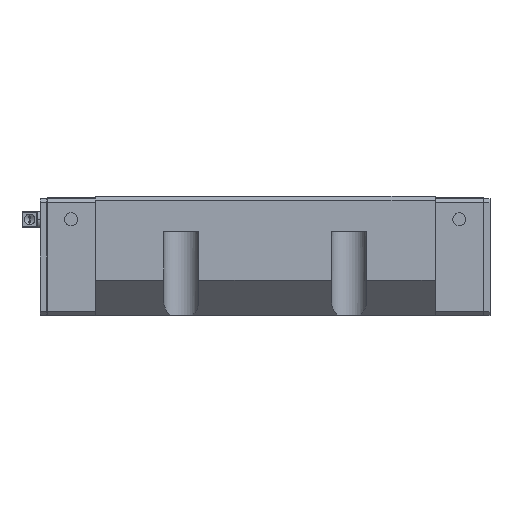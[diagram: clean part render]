
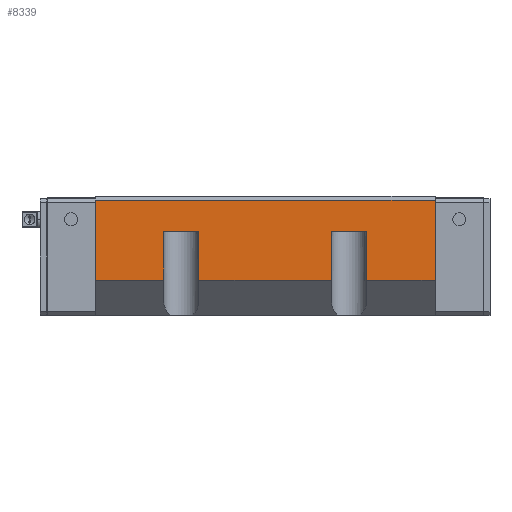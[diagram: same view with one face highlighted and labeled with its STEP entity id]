
A CAD part, top view. The second image highlights one B-rep face of the part: STEP entity #8339.
In plain terms, the highlighted planar face has unit normal (0, 0, 1).
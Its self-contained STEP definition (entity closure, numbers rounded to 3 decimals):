
#3 = DIRECTION ( 'NONE',  ( 1., 0., 0. ) ) ;
#21 = EDGE_LOOP ( 'NONE', ( #1453, #3476, #610, #3822, #1766, #6473, #3741, #2772, #1483, #8068, #5804, #791 ) ) ;
#267 = CARTESIAN_POINT ( 'NONE',  ( -80., 34.5, 85. ) ) ;
#334 = DIRECTION ( 'NONE',  ( 1., 0., 0. ) ) ;
#413 = FACE_OUTER_BOUND ( 'NONE', #21, .T. ) ;
#442 = VERTEX_POINT ( 'NONE', #8872 ) ;
#499 = DIRECTION ( 'NONE',  ( 0., -1., 0. ) ) ;
#551 = CARTESIAN_POINT ( 'NONE',  ( 66.5, -18., 85. ) ) ;
#610 = ORIENTED_EDGE ( 'NONE', *, *, #4860, .T. ) ;
#643 = DIRECTION ( 'NONE',  ( 0., 1., 0. ) ) ;
#672 = EDGE_CURVE ( 'NONE', #7491, #3756, #741, .T. ) ;
#739 = DIRECTION ( 'NONE',  ( 1., 0., 0. ) ) ;
#741 = LINE ( 'NONE', #6778, #2988 ) ;
#791 = ORIENTED_EDGE ( 'NONE', *, *, #672, .T. ) ;
#960 = VECTOR ( 'NONE', #8897, 1000. ) ;
#1019 = VECTOR ( 'NONE', #3, 1000. ) ;
#1217 = LINE ( 'NONE', #8866, #5046 ) ;
#1453 = ORIENTED_EDGE ( 'NONE', *, *, #3632, .T. ) ;
#1483 = ORIENTED_EDGE ( 'NONE', *, *, #7127, .F. ) ;
#1595 = CARTESIAN_POINT ( 'NONE',  ( -111.5, 34.5, 85. ) ) ;
#1766 = ORIENTED_EDGE ( 'NONE', *, *, #4069, .T. ) ;
#1837 = VERTEX_POINT ( 'NONE', #6180 ) ;
#1909 = AXIS2_PLACEMENT_3D ( 'NONE', #267, #6544, #6349 ) ;
#1960 = LINE ( 'NONE', #6606, #8884 ) ;
#2064 = CARTESIAN_POINT ( 'NONE',  ( 66.5, 14., 85. ) ) ;
#2122 = VERTEX_POINT ( 'NONE', #5831 ) ;
#2222 = CARTESIAN_POINT ( 'NONE',  ( -66.5, 14., 85. ) ) ;
#2349 = EDGE_CURVE ( 'NONE', #442, #9369, #4282, .T. ) ;
#2505 = CARTESIAN_POINT ( 'NONE',  ( 43.5, 14., 85. ) ) ;
#2604 = VERTEX_POINT ( 'NONE', #8480 ) ;
#2772 = ORIENTED_EDGE ( 'NONE', *, *, #8526, .F. ) ;
#2795 = CARTESIAN_POINT ( 'NONE',  ( 111.5, 34.5, 85. ) ) ;
#2874 = CARTESIAN_POINT ( 'NONE',  ( -111.5, 34.5, 85. ) ) ;
#2905 = VERTEX_POINT ( 'NONE', #7464 ) ;
#2962 = EDGE_CURVE ( 'NONE', #442, #2604, #3712, .T. ) ;
#2988 = VECTOR ( 'NONE', #643, 1000. ) ;
#3117 = CARTESIAN_POINT ( 'NONE',  ( -43.5, 14., 85. ) ) ;
#3154 = EDGE_CURVE ( 'NONE', #9174, #6337, #1217, .T. ) ;
#3178 = EDGE_CURVE ( 'NONE', #7296, #5896, #1960, .T. ) ;
#3476 = ORIENTED_EDGE ( 'NONE', *, *, #3178, .F. ) ;
#3571 = EDGE_CURVE ( 'NONE', #2905, #1837, #5086, .T. ) ;
#3632 = EDGE_CURVE ( 'NONE', #3756, #5896, #6725, .T. ) ;
#3712 = LINE ( 'NONE', #9867, #4562 ) ;
#3741 = ORIENTED_EDGE ( 'NONE', *, *, #2962, .T. ) ;
#3756 = VERTEX_POINT ( 'NONE', #7082 ) ;
#3822 = ORIENTED_EDGE ( 'NONE', *, *, #3154, .T. ) ;
#4069 = EDGE_CURVE ( 'NONE', #6337, #9369, #5828, .T. ) ;
#4118 = DIRECTION ( 'NONE',  ( 0., 1., 0. ) ) ;
#4215 = VECTOR ( 'NONE', #739, 1000. ) ;
#4282 = LINE ( 'NONE', #551, #4910 ) ;
#4317 = DIRECTION ( 'NONE',  ( 1., 0., 0. ) ) ;
#4562 = VECTOR ( 'NONE', #6762, 1000. ) ;
#4716 = CARTESIAN_POINT ( 'NONE',  ( -66.5, -18., 85. ) ) ;
#4833 = CARTESIAN_POINT ( 'NONE',  ( 43.5, -18., 85. ) ) ;
#4860 = EDGE_CURVE ( 'NONE', #7296, #9174, #9619, .T. ) ;
#4910 = VECTOR ( 'NONE', #8935, 1000. ) ;
#4986 = VECTOR ( 'NONE', #4317, 1000. ) ;
#5046 = VECTOR ( 'NONE', #8815, 1000. ) ;
#5086 = LINE ( 'NONE', #2874, #5186 ) ;
#5186 = VECTOR ( 'NONE', #499, 1000. ) ;
#5677 = LINE ( 'NONE', #9423, #8791 ) ;
#5804 = ORIENTED_EDGE ( 'NONE', *, *, #9161, .T. ) ;
#5822 = CARTESIAN_POINT ( 'NONE',  ( -43.5, -18., 85. ) ) ;
#5828 = LINE ( 'NONE', #6622, #6869 ) ;
#5831 = CARTESIAN_POINT ( 'NONE',  ( 111.5, 34.5, 85. ) ) ;
#5896 = VERTEX_POINT ( 'NONE', #3117 ) ;
#6180 = CARTESIAN_POINT ( 'NONE',  ( -111.5, -18., 85. ) ) ;
#6337 = VERTEX_POINT ( 'NONE', #2505 ) ;
#6349 = DIRECTION ( 'NONE',  ( 0., -1., 0. ) ) ;
#6473 = ORIENTED_EDGE ( 'NONE', *, *, #2349, .F. ) ;
#6544 = DIRECTION ( 'NONE',  ( 0., 0., 1. ) ) ;
#6606 = CARTESIAN_POINT ( 'NONE',  ( -43.5, -18., 85. ) ) ;
#6622 = CARTESIAN_POINT ( 'NONE',  ( 43.5, 14., 85. ) ) ;
#6725 = LINE ( 'NONE', #2222, #4215 ) ;
#6762 = DIRECTION ( 'NONE',  ( 1., 0., 0. ) ) ;
#6778 = CARTESIAN_POINT ( 'NONE',  ( -66.5, -18., 85. ) ) ;
#6835 = LINE ( 'NONE', #1595, #1019 ) ;
#6869 = VECTOR ( 'NONE', #8181, 1000. ) ;
#7082 = CARTESIAN_POINT ( 'NONE',  ( -66.5, 14., 85. ) ) ;
#7127 = EDGE_CURVE ( 'NONE', #2905, #2122, #6835, .T. ) ;
#7296 = VERTEX_POINT ( 'NONE', #9673 ) ;
#7464 = CARTESIAN_POINT ( 'NONE',  ( -111.5, 34.5, 85. ) ) ;
#7491 = VERTEX_POINT ( 'NONE', #4716 ) ;
#8068 = ORIENTED_EDGE ( 'NONE', *, *, #3571, .T. ) ;
#8181 = DIRECTION ( 'NONE',  ( 1., 0., 0. ) ) ;
#8339 = ADVANCED_FACE ( 'NONE', ( #413 ), #9449, .T. ) ;
#8480 = CARTESIAN_POINT ( 'NONE',  ( 111.5, -18., 85. ) ) ;
#8526 = EDGE_CURVE ( 'NONE', #2122, #2604, #9740, .T. ) ;
#8791 = VECTOR ( 'NONE', #334, 1000. ) ;
#8815 = DIRECTION ( 'NONE',  ( 0., 1., 0. ) ) ;
#8866 = CARTESIAN_POINT ( 'NONE',  ( 43.5, -18., 85. ) ) ;
#8872 = CARTESIAN_POINT ( 'NONE',  ( 66.5, -18., 85. ) ) ;
#8884 = VECTOR ( 'NONE', #4118, 1000. ) ;
#8897 = DIRECTION ( 'NONE',  ( 0., -1., 0. ) ) ;
#8935 = DIRECTION ( 'NONE',  ( 0., 1., 0. ) ) ;
#9161 = EDGE_CURVE ( 'NONE', #1837, #7491, #5677, .T. ) ;
#9174 = VERTEX_POINT ( 'NONE', #4833 ) ;
#9369 = VERTEX_POINT ( 'NONE', #2064 ) ;
#9423 = CARTESIAN_POINT ( 'NONE',  ( -111.5, -18., 85. ) ) ;
#9449 = PLANE ( 'NONE',  #1909 ) ;
#9619 = LINE ( 'NONE', #5822, #4986 ) ;
#9673 = CARTESIAN_POINT ( 'NONE',  ( -43.5, -18., 85. ) ) ;
#9740 = LINE ( 'NONE', #2795, #960 ) ;
#9867 = CARTESIAN_POINT ( 'NONE',  ( 66.5, -18., 85. ) ) ;
